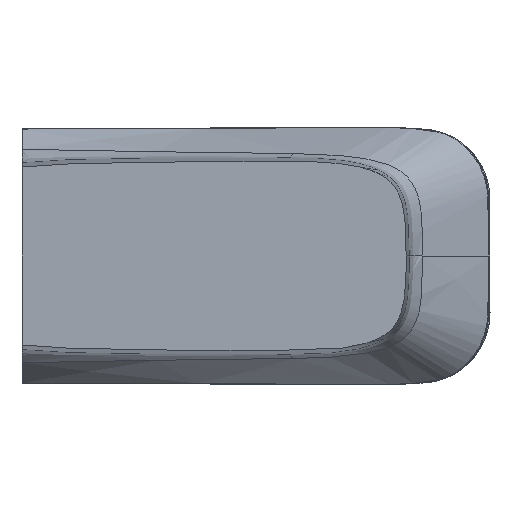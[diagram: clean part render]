
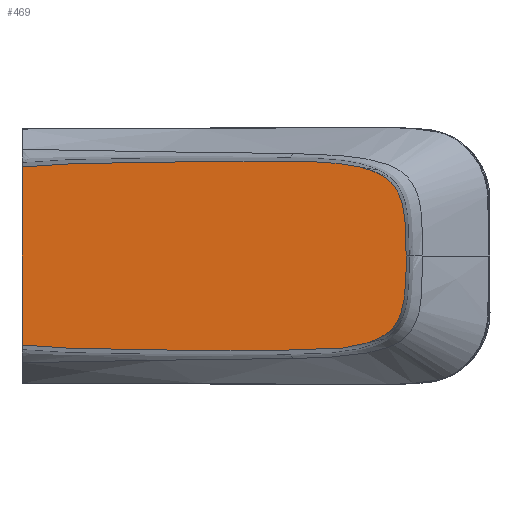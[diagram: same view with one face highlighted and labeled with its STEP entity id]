
A CAD part, front view. The second image highlights one B-rep face of the part: STEP entity #469.
In plain terms, the highlighted planar face has unit normal (0, -1, 0).
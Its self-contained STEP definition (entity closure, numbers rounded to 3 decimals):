
#469=ADVANCED_FACE('',(#906),#6241,.T.);
#906=FACE_OUTER_BOUND('',#1368,.T.);
#1368=EDGE_LOOP('',(#2954,#2955,#2956));
#2954=ORIENTED_EDGE('',*,*,#4223,.F.);
#2955=ORIENTED_EDGE('',*,*,#4360,.T.);
#2956=ORIENTED_EDGE('',*,*,#4239,.T.);
#4223=EDGE_CURVE('',#6027,#6028,#4830,.T.);
#4239=EDGE_CURVE('',#6049,#6028,#4846,.T.);
#4360=EDGE_CURVE('',#6027,#6049,#4910,.T.);
#4830=B_SPLINE_CURVE_WITH_KNOTS('',1,(#26863,#26864),.UNSPECIFIED.,.F.,
 .F.,(2,2),(7.,9.),.UNSPECIFIED.);
#4846=B_SPLINE_CURVE_WITH_KNOTS('',3,(#27039,#27040,#27041,#27042,#27043,
#27044,#27045,#27046,#27047,#27048,#27049,#27050,#27051,#27052,#27053,#27054,
#27055,#27056,#27057,#27058,#27059,#27060,#27061,#27062,#27063,#27064,#27065,
#27066,#27067,#27068,#27069,#27070,#27071,#27072,#27073,#27074,#27075,#27076,
#27077,#27078,#27079,#27080,#27081,#27082,#27083,#27084,#27085,#27086),
 .UNSPECIFIED.,.F.,.F.,(4,2,2,2,2,2,2,2,2,2,2,2,2,2,2,2,2,2,2,2,2,2,2,4),
(2.634,2.677,2.699,2.721,2.732,
2.743,2.754,2.765,2.787,2.809,
2.853,2.875,2.886,2.897,2.985,
3.073,3.161,3.205,3.227,3.249,
3.26,3.265,3.268,3.268),
 .UNSPECIFIED.);
#4910=B_SPLINE_CURVE_WITH_KNOTS('',3,(#29020,#29021,#29022,#29023,#29024,
#29025,#29026,#29027,#29028,#29029,#29030,#29031,#29032,#29033,#29034,#29035,
#29036,#29037,#29038,#29039,#29040,#29041,#29042,#29043,#29044,#29045,#29046,
#29047,#29048,#29049,#29050,#29051,#29052,#29053,#29054,#29055,#29056,#29057,
#29058,#29059,#29060,#29061,#29062,#29063,#29064,#29065,#29066,#29067),
 .UNSPECIFIED.,.F.,.F.,(4,2,2,2,2,2,2,2,2,2,2,2,2,2,2,2,2,2,2,2,2,2,2,4),
(-2.,-1.999,-1.995,-1.986,
-1.969,-1.934,-1.899,-1.83,
-1.691,-1.552,-1.414,-1.396,
-1.379,-1.344,-1.275,-1.24,
-1.206,-1.188,-1.171,-1.153,
-1.136,-1.101,-1.067,-1.),
 .UNSPECIFIED.);
#6027=VERTEX_POINT('',#26272);
#6028=VERTEX_POINT('',#26273);
#6049=VERTEX_POINT('',#26294);
#6241=PLANE('',#6681);
#6681=AXIS2_PLACEMENT_3D('',#16122,#6768,$);
#6768=DIRECTION('',(0.,-1.,0.));
#16122=CARTESIAN_POINT('',(-137.739,-188.113,136.296));
#26272=CARTESIAN_POINT('',(-137.739,-188.113,-123.723));
#26273=CARTESIAN_POINT('',(-137.739,-188.113,123.723));
#26294=CARTESIAN_POINT('',(396.082,-188.113,0.));
#26863=CARTESIAN_POINT('',(-137.739,-188.113,-123.723));
#26864=CARTESIAN_POINT('',(-137.739,-188.113,123.723));
#27039=CARTESIAN_POINT('',(396.082,-188.113,0.));
#27040=CARTESIAN_POINT('',(396.089,-188.113,14.169));
#27041=CARTESIAN_POINT('',(396.128,-188.113,28.276));
#27042=CARTESIAN_POINT('',(394.746,-188.113,49.274));
#27043=CARTESIAN_POINT('',(394.008,-188.113,56.375));
#27044=CARTESIAN_POINT('',(391.513,-188.113,70.338));
#27045=CARTESIAN_POINT('',(389.755,-188.113,77.203));
#27046=CARTESIAN_POINT('',(385.921,-188.113,86.636));
#27047=CARTESIAN_POINT('',(384.436,-188.113,89.648));
#27048=CARTESIAN_POINT('',(380.915,-188.113,95.394));
#27049=CARTESIAN_POINT('',(378.929,-188.113,98.038));
#27050=CARTESIAN_POINT('',(374.482,-188.113,102.932));
#27051=CARTESIAN_POINT('',(372.007,-188.113,105.193));
#27052=CARTESIAN_POINT('',(366.624,-188.113,109.331));
#27053=CARTESIAN_POINT('',(363.772,-188.113,111.172));
#27054=CARTESIAN_POINT('',(354.805,-188.113,116.156));
#27055=CARTESIAN_POINT('',(348.227,-188.113,118.785));
#27056=CARTESIAN_POINT('',(334.722,-188.113,122.996));
#27057=CARTESIAN_POINT('',(327.806,-188.113,124.589));
#27058=CARTESIAN_POINT('',(306.758,-188.113,128.429));
#27059=CARTESIAN_POINT('',(292.335,-188.113,129.753));
#27060=CARTESIAN_POINT('',(270.506,-188.113,130.887));
#27061=CARTESIAN_POINT('',(263.215,-188.113,131.112));
#27062=CARTESIAN_POINT('',(252.262,-188.113,131.284));
#27063=CARTESIAN_POINT('',(248.608,-188.113,131.314));
#27064=CARTESIAN_POINT('',(241.296,-188.113,131.326));
#27065=CARTESIAN_POINT('',(237.594,-188.113,131.322));
#27066=CARTESIAN_POINT('',(204.451,-188.113,131.332));
#27067=CARTESIAN_POINT('',(174.999,-188.113,131.305));
#27068=CARTESIAN_POINT('',(116.093,-188.113,131.098));
#27069=CARTESIAN_POINT('',(86.643,-188.113,130.923));
#27070=CARTESIAN_POINT('',(27.783,-188.113,130.343));
#27071=CARTESIAN_POINT('',(-1.632,-188.113,129.947));
#27072=CARTESIAN_POINT('',(-45.684,-188.113,128.977));
#27073=CARTESIAN_POINT('',(-60.356,-188.113,128.592));
#27074=CARTESIAN_POINT('',(-82.318,-188.113,127.816));
#27075=CARTESIAN_POINT('',(-89.631,-188.113,127.524));
#27076=CARTESIAN_POINT('',(-104.22,-188.113,126.821));
#27077=CARTESIAN_POINT('',(-111.504,-188.113,126.417));
#27078=CARTESIAN_POINT('',(-122.327,-188.113,125.599));
#27079=CARTESIAN_POINT('',(-125.924,-188.113,125.292));
#27080=CARTESIAN_POINT('',(-131.215,-188.113,124.709));
#27081=CARTESIAN_POINT('',(-132.971,-188.113,124.493));
#27082=CARTESIAN_POINT('',(-135.512,-188.113,124.114));
#27083=CARTESIAN_POINT('',(-136.301,-188.113,123.98));
#27084=CARTESIAN_POINT('',(-137.383,-188.113,123.787));
#27085=CARTESIAN_POINT('',(-137.561,-188.113,123.755));
#27086=CARTESIAN_POINT('',(-137.739,-188.113,123.723));
#29020=CARTESIAN_POINT('',(-137.739,-188.113,-123.723));
#29021=CARTESIAN_POINT('',(-137.561,-188.113,-123.755));
#29022=CARTESIAN_POINT('',(-137.383,-188.113,-123.787));
#29023=CARTESIAN_POINT('',(-136.301,-188.113,-123.98));
#29024=CARTESIAN_POINT('',(-135.512,-188.113,-124.114));
#29025=CARTESIAN_POINT('',(-132.971,-188.113,-124.493));
#29026=CARTESIAN_POINT('',(-131.215,-188.113,-124.709));
#29027=CARTESIAN_POINT('',(-125.924,-188.113,-125.292));
#29028=CARTESIAN_POINT('',(-122.327,-188.113,-125.599));
#29029=CARTESIAN_POINT('',(-111.504,-188.113,-126.417));
#29030=CARTESIAN_POINT('',(-104.22,-188.113,-126.821));
#29031=CARTESIAN_POINT('',(-89.631,-188.113,-127.524));
#29032=CARTESIAN_POINT('',(-82.318,-188.113,-127.816));
#29033=CARTESIAN_POINT('',(-60.356,-188.113,-128.592));
#29034=CARTESIAN_POINT('',(-45.684,-188.113,-128.977));
#29035=CARTESIAN_POINT('',(-1.632,-188.113,-129.947));
#29036=CARTESIAN_POINT('',(27.783,-188.113,-130.343));
#29037=CARTESIAN_POINT('',(86.643,-188.113,-130.923));
#29038=CARTESIAN_POINT('',(116.093,-188.113,-131.098));
#29039=CARTESIAN_POINT('',(174.999,-188.113,-131.305));
#29040=CARTESIAN_POINT('',(204.451,-188.113,-131.332));
#29041=CARTESIAN_POINT('',(237.594,-188.113,-131.322));
#29042=CARTESIAN_POINT('',(241.296,-188.113,-131.326));
#29043=CARTESIAN_POINT('',(248.608,-188.113,-131.314));
#29044=CARTESIAN_POINT('',(252.262,-188.113,-131.284));
#29045=CARTESIAN_POINT('',(263.215,-188.113,-131.112));
#29046=CARTESIAN_POINT('',(270.506,-188.113,-130.887));
#29047=CARTESIAN_POINT('',(292.335,-188.113,-129.753));
#29048=CARTESIAN_POINT('',(306.758,-188.113,-128.429));
#29049=CARTESIAN_POINT('',(327.806,-188.113,-124.589));
#29050=CARTESIAN_POINT('',(334.722,-188.113,-122.996));
#29051=CARTESIAN_POINT('',(348.227,-188.113,-118.785));
#29052=CARTESIAN_POINT('',(354.805,-188.113,-116.156));
#29053=CARTESIAN_POINT('',(363.772,-188.113,-111.172));
#29054=CARTESIAN_POINT('',(366.624,-188.113,-109.331));
#29055=CARTESIAN_POINT('',(372.007,-188.113,-105.193));
#29056=CARTESIAN_POINT('',(374.482,-188.113,-102.932));
#29057=CARTESIAN_POINT('',(378.929,-188.113,-98.038));
#29058=CARTESIAN_POINT('',(380.915,-188.113,-95.394));
#29059=CARTESIAN_POINT('',(384.436,-188.113,-89.648));
#29060=CARTESIAN_POINT('',(385.921,-188.113,-86.636));
#29061=CARTESIAN_POINT('',(389.755,-188.113,-77.203));
#29062=CARTESIAN_POINT('',(391.513,-188.113,-70.338));
#29063=CARTESIAN_POINT('',(394.008,-188.113,-56.375));
#29064=CARTESIAN_POINT('',(394.746,-188.113,-49.274));
#29065=CARTESIAN_POINT('',(396.128,-188.113,-28.276));
#29066=CARTESIAN_POINT('',(396.089,-188.113,-14.169));
#29067=CARTESIAN_POINT('',(396.082,-188.113,0.));
